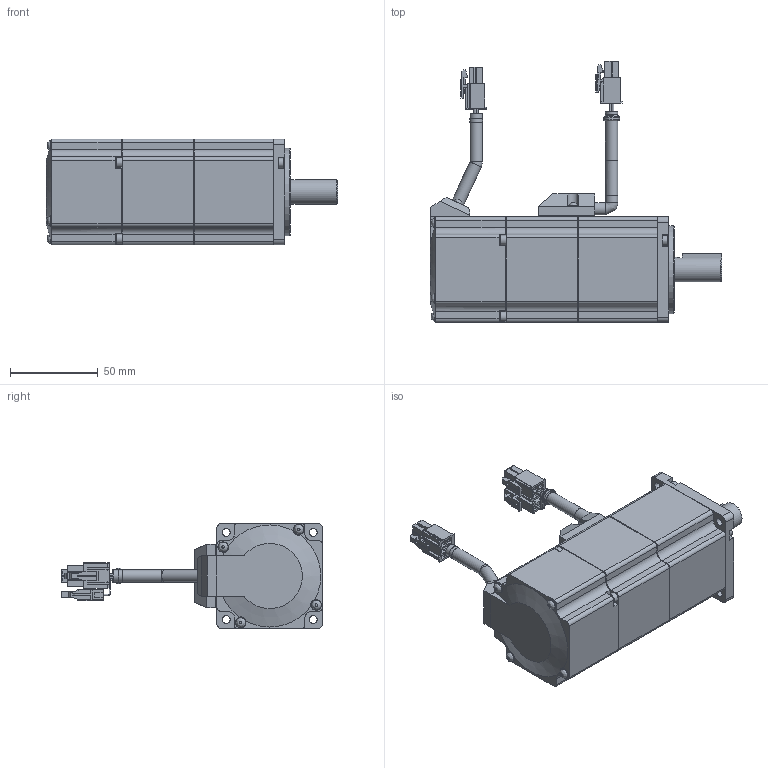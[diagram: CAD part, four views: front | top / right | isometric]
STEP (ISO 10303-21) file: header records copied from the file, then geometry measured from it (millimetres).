
FILE_DESCRIPTION( ( 'STEP AP203' ), '1' );
FILE_NAME( '//expscmdclustefs.cadenas.external/client_exchange/iodir/jobs/output/wkb71153759_no0/STEP/_MSMD042P1TA_2_03.stp', ' ', ( ' ' ), ( ' ' ), 'PSStep 15.0.47', 'PARTsolutions', ' ' );
FILE_SCHEMA( ( 'CONFIG_CONTROL_DESIGN' ) );
Length unit declared in the file: millimetre
Products named in the file (9):  MSMD042P1TA; HI_Motor--04-BPBB; HI_Motoplug--04B; HI_Brake--04P; HI_Motor Connector; HI_Brake Connector; HI_Encoder--04P; HI_Cabel  brake--04-P-6; HI_2500 p/r Connector
Assembly tree (8 placements, depth 2):
   MSMD042P1TA
    HI_Motor--04-BPBB
    HI_Motoplug--04B
    HI_Brake--04P
    HI_Motor Connector
    HI_Brake Connector
    HI_Encoder--04P
    HI_Cabel  brake--04-P-6
    HI_2500 p/r Connector
Bounding box: 165.5 x 148.3 x 60 mm (x, y, z)
Volume: 467789.8 mm3; surface area: 58238.4 mm2
Topology: 8 solids, 8 shells, 800 faces, 2052 edges, 1343 vertices
Faces by surface type: plane 587, cylinder 181, cone 15, torus 9, bspline 8
Full cylindrical faces by diameter (mm): 1 x14, 1.82 x4, 2.6 x12, 4.134 x1, 4.5 x8, 5.5 x8, 6 x4, 7 x7, 7.2 x1, 9 x1, 14 x1, 27.5 x1, 50 x1
Entity records: 24029 total; most frequent: CARTESIAN_POINT 4476, DIRECTION 3927, ORIENTED_EDGE 3876, EDGE_CURVE 1938, LINE 1509, VECTOR 1509, VERTEX_POINT 1322, AXIS2_PLACEMENT_3D 1209
